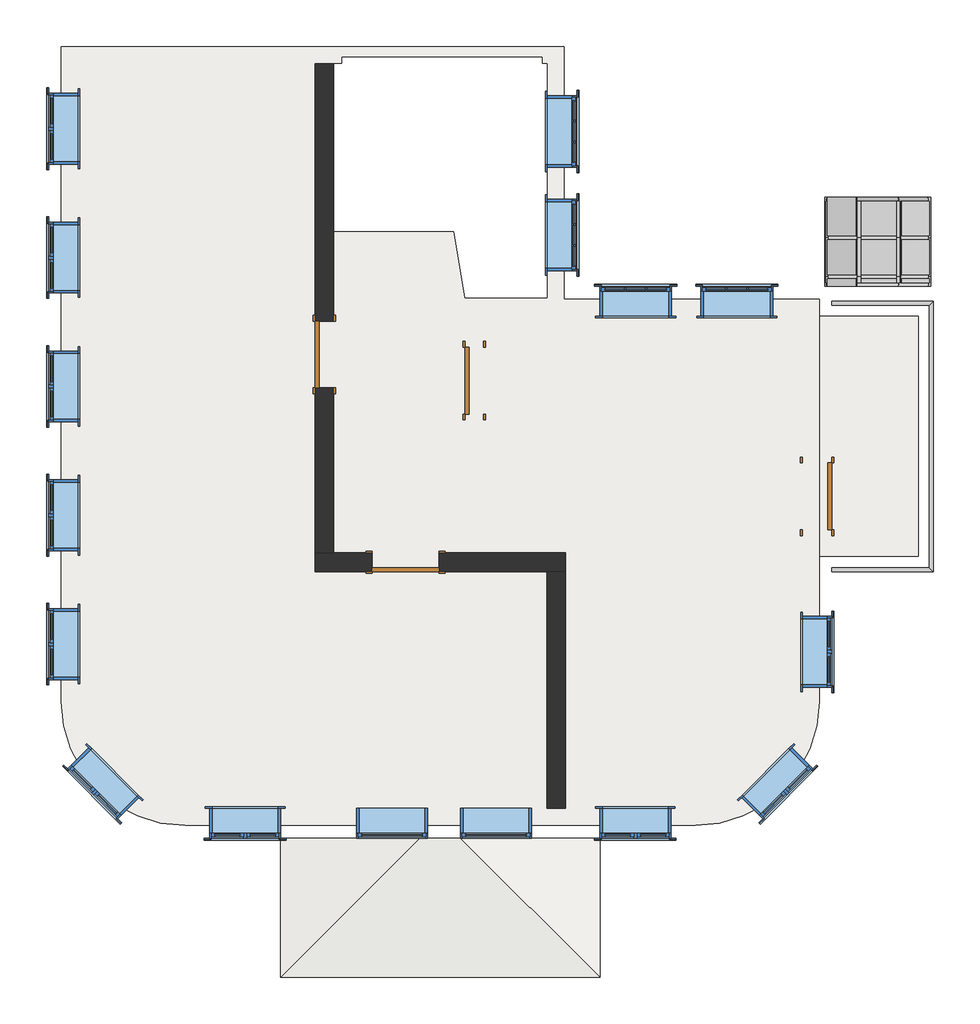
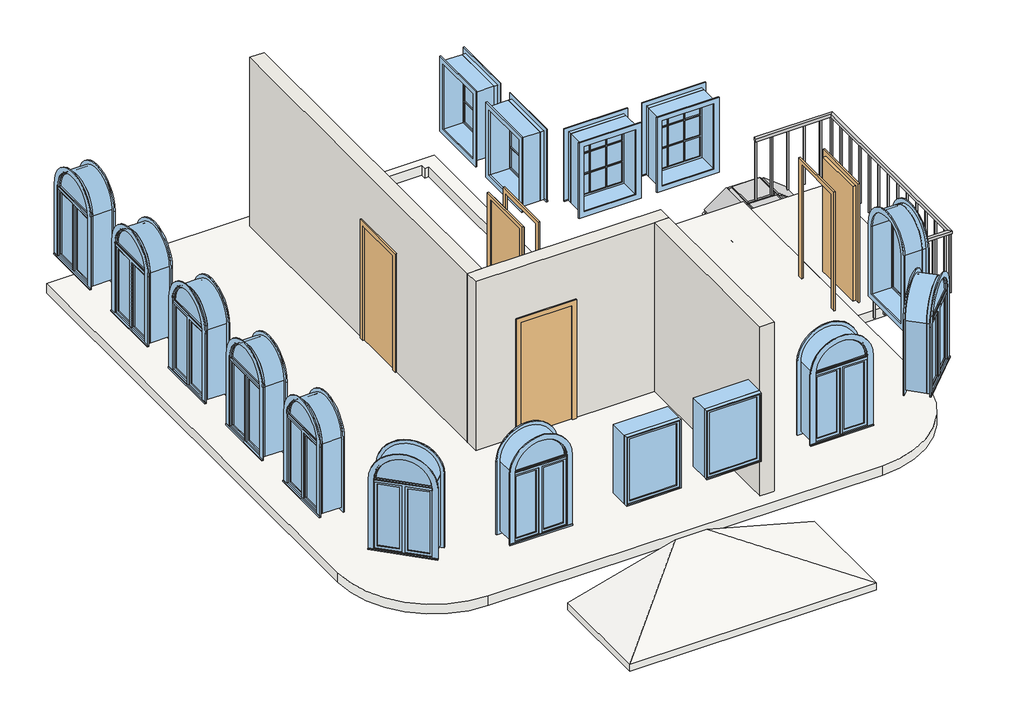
# One storey: 27 members, 16 windows, 9 plates, 4 doors, 3 walls, 2 slabs, 1 railing, 1 roof.
"""IFC4 building model written with IfcOpenShell, lengths in millimetres."""

from ifc_helpers import new_model, si_unit, point, frame, frame_2d, origin, place, context, project, spatial, polyline, circle_curve, trimmed, segment, composite_curve, outline, extrude, faceted_brep, transform, mapped, element, save
from components import door_ea98532d, door_d674bff8, member_5490ff31, member_26caf756, member_0b83a453, member_5b2e4b60, member_a07bf11e, member_52f6bd63, member_5daffadf, member_41b69e77, member_6c500f24, member_add3a86c, member_5090654c, member_9f0fa0cb, plate_e0c8f2b3, plate_3c5f5a08, plate_edc0c4ef, plate_30ae563e, railing_185072cb, window_f95da8d7, window_90be6c16, window_8de6a101

model = new_model("IFC4")

# Units and contexts
model_context = context("Model", 3, world=origin())
ifc_project = project(units=[si_unit("LENGTHUNIT", "METRE", prefix="MILLI")], contexts=[model_context])

# Site, building, storey
site = spatial("IfcSite", under=ifc_project)
building = spatial("IfcBuilding", under=site)
storey = spatial("IfcBuildingStorey", under=building, Name="2 этаж", Elevation=3300.0)

# Doors
placement = place(None, origin())
door_shape = door_ea98532d(model_context)
element("IfcDoor", 1, ObjectType="Одиночные-Щитовые : 0864 x 2032 мм", at=placement, inside=storey, context=model_context, shape_type="MappedRepresentation", body=[
    mapped(door_shape, transform((-1941.7998207, 1716.4374152, 3300.0), x_axis=(0.0, -1.0, 0.0), y_axis=(1.0, 0.0, 0.0), z_axis=(0.0, 0.0, 1.0))),
])
door_2_shape = door_d674bff8(model_context)
element("IfcDoor", 2, ObjectType="Одиночные-Щитовые : 0864 x 2032 мм", at=placement, inside=storey, context=model_context, shape_type="MappedRepresentation", body=[
    mapped(door_2_shape, transform((-7262.2998207, 864.4374152, 3300.0), x_axis=(1.0, 0.0, 0.0), y_axis=(0.0, 1.0, 0.0), z_axis=(0.0, 0.0, 1.0))),
])
element("IfcDoor", 3, ObjectType="Одиночные-Щитовые : 0864 x 2032 мм", at=placement, inside=storey, context=model_context, shape_type="MappedRepresentation", body=[
    mapped(door_2_shape, transform((-8314.2998207, 3548.9374152, 3300.0), x_axis=(0.0, -1.0, 0.0), y_axis=(1.0, 0.0, 0.0), z_axis=(0.0, 0.0, 1.0))),
])
element("IfcDoor", 4, ObjectType="Одиночные-Щитовые : 0864 x 2032 мм", at=placement, inside=storey, context=model_context, shape_type="MappedRepresentation", body=[
    mapped(door_2_shape, transform((-6374.2998207, 3212.4374152, 3300.0), x_axis=(0.0, -1.0, 0.0), y_axis=(1.0, 0.0, 0.0), z_axis=(0.0, 0.0, 1.0))),
])

# Members
member_shape = member_5490ff31(model_context)
element("IfcMember", 5, ObjectType="Импост круглого сечения : Радиус 25мм", at=placement, inside=storey, context=model_context, shape_type="MappedRepresentation", body=[
    mapped(member_shape, transform((-518.9223923, 5056.8379074, 2267.7344362), x_axis=(0.0, -1.0, 0.0), y_axis=(-0.6099350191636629, 0.0, -0.7924514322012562), z_axis=(0.7924514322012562, 0.0, -0.6099350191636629))),
])
element("IfcMember", 6, ObjectType="Импост круглого сечения : Радиус 25мм", at=placement, inside=storey, context=model_context, shape_type="MappedRepresentation", body=[
    mapped(member_shape, transform((-518.9223923, 4556.8379074, 2267.7344362), x_axis=(0.0, -1.0, 0.0), y_axis=(-0.6099350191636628, 0.0, -0.7924514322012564), z_axis=(0.7924514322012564, 0.0, -0.6099350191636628))),
])
element("IfcMember", 7, ObjectType="Импост круглого сечения : Радиус 25мм", at=placement, inside=storey, context=model_context, shape_type="MappedRepresentation", body=[
    mapped(member_shape, transform((-920.3351215, 5056.8379074, 2557.7452058), x_axis=(0.0, -1.0, 0.0), y_axis=(-0.011665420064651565, 0.0, -0.9999319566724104), z_axis=(0.9999319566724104, 0.0, -0.011665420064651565))),
])
element("IfcMember", 8, ObjectType="Импост круглого сечения : Радиус 25мм", at=placement, inside=storey, context=model_context, shape_type="MappedRepresentation", body=[
    mapped(member_shape, transform((-920.3351215, 4556.8379074, 2557.7452058), x_axis=(0.0, -1.0, 0.0), y_axis=(-0.011665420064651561, 0.0, -0.9999319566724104), z_axis=(0.9999319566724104, 0.0, -0.011665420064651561))),
])
element("IfcMember", 9, ObjectType="Импост круглого сечения : Радиус 25мм", at=placement, inside=storey, context=model_context, shape_type="MappedRepresentation", body=[
    mapped(member_shape, transform((-1415.7024234, 5056.8379074, 2548.8344499), x_axis=(0.0, -1.0, 0.0), y_axis=(0.5780732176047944, 0.0, -0.815984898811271), z_axis=(0.815984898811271, 0.0, 0.5780732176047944))),
])
element("IfcMember", 10, ObjectType="Импост круглого сечения : Радиус 25мм", at=placement, inside=storey, context=model_context, shape_type="MappedRepresentation", body=[
    mapped(member_shape, transform((-1415.7024234, 4556.8379074, 2548.8344499), x_axis=(0.0, -1.0, 0.0), y_axis=(0.5780732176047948, 0.0, -0.8159848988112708), z_axis=(0.8159848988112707, 0.0, 0.5780732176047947))),
])
member_2_shape = member_26caf756(model_context)
element("IfcMember", 11, ObjectType="Импост круглого сечения : Радиус 25мм", at=placement, inside=storey, context=model_context, shape_type="MappedRepresentation", body=[
    mapped(member_2_shape, transform((-895.3368226, 4479.4374152, 2557.4535703), x_axis=(-0.9474329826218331, 0.0, 0.3199542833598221), y_axis=(-0.3199542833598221, 0.0, -0.9474329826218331), z_axis=(0.0, -1.0, 0.0))),
])
element("IfcMember", 12, ObjectType="Импост круглого сечения : Радиус 25мм", at=placement, inside=storey, context=model_context, shape_type="MappedRepresentation", body=[
    mapped(member_2_shape, transform((-1395.3028009, 4479.4374152, 2563.2862803), x_axis=(-0.9546394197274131, 0.0, -0.2977642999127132), y_axis=(0.2977642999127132, 0.0, -0.9546394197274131), z_axis=(0.0, -1.0, 0.0))),
])
element("IfcMember", 13, ObjectType="Импост круглого сечения : Радиус 25мм", at=placement, inside=storey, context=model_context, shape_type="MappedRepresentation", body=[
    mapped(member_2_shape, transform((-1803.2952503, 4479.4374152, 2274.2496715), x_axis=(-0.5975285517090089, 0.0, -0.8018476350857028), y_axis=(0.8018476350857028, 0.0, -0.5975285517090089), z_axis=(0.0, -1.0, 0.0))),
])
member_3_shape = member_0b83a453(model_context)
element("IfcMember", 14, ObjectType="Импост круглого сечения : Радиус 25мм", at=placement, inside=storey, context=model_context, shape_type="MappedRepresentation", body=[
    mapped(member_3_shape, transform((-895.3368226, 5056.8379074, 2557.4535703), x_axis=(-0.9474329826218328, 0.0, 0.31995428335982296), y_axis=(-0.31995428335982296, 0.0, -0.9474329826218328), z_axis=(0.0, -1.0, 0.0))),
])
element("IfcMember", 15, ObjectType="Импост круглого сечения : Радиус 25мм", at=placement, inside=storey, context=model_context, shape_type="MappedRepresentation", body=[
    mapped(member_3_shape, transform((-1395.3028009, 5056.8379074, 2563.2862803), x_axis=(-0.9546394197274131, 0.0, -0.2977642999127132), y_axis=(0.2977642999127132, 0.0, -0.9546394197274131), z_axis=(0.0, -1.0, 0.0))),
])
element("IfcMember", 16, ObjectType="Импост круглого сечения : Радиус 25мм", at=placement, inside=storey, context=model_context, shape_type="MappedRepresentation", body=[
    mapped(member_3_shape, transform((-1803.2952503, 5056.8379074, 2274.2496715), x_axis=(-0.5975285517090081, 0.0, -0.8018476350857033), y_axis=(0.8018476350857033, 0.0, -0.5975285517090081), z_axis=(0.0, -1.0, 0.0))),
])
member_4_shape = member_5b2e4b60(model_context)
element("IfcMember", 17, ObjectType="Импост круглого сечения : Радиус 25мм", at=placement, inside=storey, context=model_context, shape_type="MappedRepresentation", body=[
    mapped(member_4_shape, transform((-895.3368226, 4556.8379074, 2557.4535703), x_axis=(-0.9474329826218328, 0.0, 0.31995428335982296), y_axis=(-0.31995428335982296, 0.0, -0.9474329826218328), z_axis=(0.0, -1.0, 0.0))),
])
element("IfcMember", 18, ObjectType="Импост круглого сечения : Радиус 25мм", at=placement, inside=storey, context=model_context, shape_type="MappedRepresentation", body=[
    mapped(member_4_shape, transform((-1395.3028009, 4556.8379074, 2563.2862803), x_axis=(-0.9546394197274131, 0.0, -0.2977642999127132), y_axis=(0.2977642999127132, 0.0, -0.9546394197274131), z_axis=(0.0, -1.0, 0.0))),
])
element("IfcMember", 19, ObjectType="Импост круглого сечения : Радиус 25мм", at=placement, inside=storey, context=model_context, shape_type="MappedRepresentation", body=[
    mapped(member_4_shape, transform((-1803.2952503, 4556.8379074, 2274.2496715), x_axis=(-0.5975285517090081, 0.0, -0.8018476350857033), y_axis=(0.8018476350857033, 0.0, -0.5975285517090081), z_axis=(0.0, -1.0, 0.0))),
])
member_5_shape = member_a07bf11e(model_context)
element("IfcMember", 20, ObjectType="Импост круглого сечения : Радиус 25мм", at=placement, inside=storey, context=model_context, shape_type="MappedRepresentation", body=[
    mapped(member_5_shape, transform((-479.2998207, 5581.8379074, 2237.2376852), x_axis=(0.7924514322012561, 0.0, -0.609935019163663), y_axis=(-0.609935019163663, 0.0, -0.7924514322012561), z_axis=(0.0, 1.0, 0.0))),
])
member_6_shape = member_52f6bd63(model_context)
element("IfcMember", 21, ObjectType="Импост круглого сечения : Радиус 25мм", at=placement, inside=storey, context=model_context, shape_type="MappedRepresentation", body=[
    mapped(member_6_shape, transform((-1829.2998207, 4429.4374152, 2237.2376852), x_axis=(-0.574888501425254, 0.0, -0.8182317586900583), y_axis=(0.8182317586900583, 0.0, -0.574888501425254), z_axis=(0.0, -1.0, 0.0))),
])
member_7_shape = member_5daffadf(model_context)
element("IfcMember", 22, ObjectType="Импост круглого сечения : Радиус 25мм", at=placement, inside=storey, context=model_context, shape_type="MappedRepresentation", body=[
    mapped(member_7_shape, transform((-479.2998207, 5056.8379074, 2237.2376852), x_axis=(0.7924514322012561, 0.0, -0.6099350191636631), y_axis=(-0.6099350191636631, 0.0, -0.7924514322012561), z_axis=(0.0, 1.0, 0.0))),
])
element("IfcMember", 23, ObjectType="Импост круглого сечения : Радиус 25мм", at=placement, inside=storey, context=model_context, shape_type="MappedRepresentation", body=[
    mapped(member_7_shape, transform((-1829.2998207, 4556.8379074, 2237.2376852), x_axis=(-0.57488850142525, 0.0, -0.818231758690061), y_axis=(0.818231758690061, 0.0, -0.57488850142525), z_axis=(0.0, -1.0, 0.0))),
])
element("IfcMember", 24, ObjectType="Импост круглого сечения : Радиус 25мм", at=placement, inside=storey, context=model_context, shape_type="MappedRepresentation", body=[
    mapped(member_6_shape, transform((-479.2998207, 4556.8379074, 2237.2376852), x_axis=(0.792451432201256, 0.0, -0.6099350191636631), y_axis=(-0.6099350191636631, 0.0, -0.792451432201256), z_axis=(0.0, 1.0, 0.0))),
])
element("IfcMember", 25, ObjectType="Импост круглого сечения : Радиус 25мм", at=placement, inside=storey, context=model_context, shape_type="MappedRepresentation", body=[
    mapped(member_5_shape, transform((-1829.2998207, 5056.8379074, 2237.2376852), x_axis=(-0.57488850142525, 0.0, -0.818231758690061), y_axis=(0.818231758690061, 0.0, -0.57488850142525), z_axis=(0.0, -1.0, 0.0))),
])
member_8_shape = member_41b69e77(model_context)
element("IfcMember", 26, ObjectType="Импост круглого сечения : Радиус 25мм", at=placement, inside=storey, context=model_context, shape_type="MappedRepresentation", body=[
    mapped(member_8_shape, transform((-1800.5553956, 5581.8379074, 2278.1492732), x_axis=(0.0, 1.0, 0.0), y_axis=(0.8182317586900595, 0.0, -0.5748885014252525), z_axis=(-0.5748885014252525, 0.0, -0.8182317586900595))),
])
member_9_shape = member_6c500f24(model_context)
element("IfcMember", 27, ObjectType="Импост круглого сечения : Радиус 25мм", at=placement, inside=storey, context=model_context, shape_type="MappedRepresentation", body=[
    mapped(member_9_shape, transform((-1420.3010999, 5581.8379074, 2563.5779158), x_axis=(0.0, 1.0, 0.0), y_axis=(-0.011665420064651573, 0.0, -0.9999319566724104), z_axis=(-0.9999319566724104, 0.0, 0.011665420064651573))),
])
member_10_shape = member_add3a86c(model_context)
element("IfcMember", 28, ObjectType="Импост круглого сечения : Радиус 25мм", at=placement, inside=storey, context=model_context, shape_type="MappedRepresentation", body=[
    mapped(member_10_shape, transform((-895.3368226, 4429.4374152, 2557.4535703), x_axis=(0.0, -1.0, 0.0), y_axis=(-0.011665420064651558, 0.0, -0.9999319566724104), z_axis=(0.9999319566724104, 0.0, -0.011665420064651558))),
])
element("IfcMember", 29, ObjectType="Импост круглого сечения : Радиус 25мм", at=placement, inside=storey, context=model_context, shape_type="MappedRepresentation", body=[
    mapped(member_8_shape, transform((-1788.9230378, 4429.4374152, 2294.7054655), x_axis=(0.0, -1.0, 0.0), y_axis=(0.8182317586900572, 0.0, -0.5748885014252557), z_axis=(0.5748885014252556, 0.0, 0.818231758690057))),
])
member_11_shape = member_5090654c(model_context)
element("IfcMember", 30, ObjectType="Импост круглого сечения : Радиус 25мм", at=placement, inside=storey, context=model_context, shape_type="MappedRepresentation", body=[
    mapped(member_11_shape, transform((-518.9223923, 4429.4374152, 2267.7344362), x_axis=(0.0, -1.0, 0.0), y_axis=(-0.6099350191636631, 0.0, -0.792451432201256), z_axis=(0.792451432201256, 0.0, -0.6099350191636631))),
])
member_12_shape = member_9f0fa0cb(model_context)
element("IfcMember", 31, ObjectType="Импост круглого сечения : Радиус 25мм", at=placement, inside=storey, context=model_context, shape_type="MappedRepresentation", body=[
    mapped(member_12_shape, transform((-895.3368226, 5581.8379074, 2557.4535703), x_axis=(0.0, 1.0, 0.0), y_axis=(-0.6099350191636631, 0.0, -0.792451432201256), z_axis=(-0.792451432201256, 0.0, 0.6099350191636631))),
])

# Plates
plate_shape = plate_e0c8f2b3(model_context)
element("IfcPlate", 32, ObjectType="Системная панель : С остеклением", at=placement, inside=storey, context=model_context, shape_type="MappedRepresentation", body=[
    mapped(plate_shape, transform((-1599.2990256, 5081.8379074, 2418.7679759), x_axis=(-0.8159848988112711, 0.0, -0.5780732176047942), y_axis=(-0.5780732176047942, 0.0, 0.8159848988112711), z_axis=(0.0, 1.0, 0.0))),
])
plate_2_shape = plate_3c5f5a08(model_context)
element("IfcPlate", 33, ObjectType="Системная панель : С остеклением", at=placement, inside=storey, context=model_context, shape_type="MappedRepresentation", body=[
    mapped(plate_2_shape, transform((-697.2239645, 5081.8379074, 2404.9698155), x_axis=(-0.7924514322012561, 0.0, 0.609935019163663), y_axis=(0.609935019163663, 0.0, 0.7924514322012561), z_axis=(0.0, 1.0, 0.0))),
])
element("IfcPlate", 34, ObjectType="Системная панель : С остеклением", at=placement, inside=storey, context=model_context, shape_type="MappedRepresentation", body=[
    mapped(plate_2_shape, transform((-1145.3198118, 5081.8379074, 2560.3699253), x_axis=(-0.9999319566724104, 0.0, 0.011665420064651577), y_axis=(0.011665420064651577, 0.0, 0.9999319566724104), z_axis=(0.0, 1.0, 0.0))),
])
element("IfcPlate", 35, ObjectType="Системная панель : С остеклением", at=placement, inside=storey, context=model_context, shape_type="MappedRepresentation", body=[
    mapped(plate_2_shape, transform((-697.2239645, 4581.8379074, 2404.9698155), x_axis=(-0.7924514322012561, 0.0, 0.6099350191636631), y_axis=(0.6099350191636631, 0.0, 0.7924514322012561), z_axis=(0.0, 1.0, 0.0))),
])
element("IfcPlate", 36, ObjectType="Системная панель : С остеклением", at=placement, inside=storey, context=model_context, shape_type="MappedRepresentation", body=[
    mapped(plate_2_shape, transform((-1145.3198118, 4581.8379074, 2560.3699253), x_axis=(-0.9999319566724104, 0.0, 0.011665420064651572), y_axis=(0.011665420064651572, 0.0, 0.9999319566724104), z_axis=(0.0, 1.0, 0.0))),
])
element("IfcPlate", 37, ObjectType="Системная панель : С остеклением", at=placement, inside=storey, context=model_context, shape_type="MappedRepresentation", body=[
    mapped(plate_2_shape, transform((-1599.2990256, 4581.8379074, 2418.7679759), x_axis=(-0.8159848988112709, 0.0, -0.5780732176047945), y_axis=(-0.5780732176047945, 0.0, 0.8159848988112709), z_axis=(0.0, 1.0, 0.0))),
])
plate_3_shape = plate_edc0c4ef(model_context)
element("IfcPlate", 38, ObjectType="Системная панель : С остеклением", at=placement, inside=storey, context=model_context, shape_type="MappedRepresentation", body=[
    mapped(plate_3_shape, transform((-697.2239645, 4479.4374152, 2404.9698155), x_axis=(-0.792451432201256, 0.0, 0.6099350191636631), y_axis=(0.6099350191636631, 0.0, 0.792451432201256), z_axis=(0.0, 1.0, 0.0))),
])
element("IfcPlate", 39, ObjectType="Системная панель : С остеклением", at=placement, inside=storey, context=model_context, shape_type="MappedRepresentation", body=[
    mapped(plate_3_shape, transform((-1145.3198118, 4479.4374152, 2560.3699253), x_axis=(-0.9999319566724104, 0.0, 0.011665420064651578), y_axis=(0.011665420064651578, 0.0, 0.9999319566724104), z_axis=(0.0, 1.0, 0.0))),
])
plate_4_shape = plate_30ae563e(model_context)
element("IfcPlate", 40, ObjectType="Системная панель : С остеклением", at=placement, inside=storey, context=model_context, shape_type="MappedRepresentation", body=[
    mapped(plate_4_shape, transform((-1599.2990256, 4429.4374152, 2418.7679759), x_axis=(-0.8159848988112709, 0.0, -0.5780732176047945), y_axis=(-0.5780732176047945, 0.0, 0.8159848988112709), z_axis=(0.0, 1.0, 0.0))),
])

# Railing
railing_shape = railing_185072cb(model_context)
element("IfcRailing", 41, ObjectType="1100 мм", at=placement, inside=storey, context=model_context, shape_type="MappedRepresentation", body=[
    mapped(railing_shape, transform((0.0, 0.0, 0.0), x_axis=(1.0, 0.0, 0.0), y_axis=(0.0, 1.0, 0.0), z_axis=(0.0, 0.0, 1.0))),
])

# Roof
element("IfcRoof", 42, ObjectType="Типовой - 125мм", at=placement, inside=storey, context=model_context, shape_type="Brep", body=[
    faceted_brep([(-6549.2998207, -2700.5625848, 3201.9237886), (-4749.2998207, -2700.5625848, 2719.6152423), (-4749.2998207, -4500.5625848, 2719.6152423), (-8879.2998207, -4500.5625848, 2719.6152423), (-8879.2998207, -2700.5625848, 2719.6152423), (-7079.2998207, -2700.5625848, 3201.9237886), (-4749.2998207, -2700.5625848, 2849.0247648), (-6549.2998207, -2700.5625848, 3331.3333112), (-4749.2998207, -4500.5625848, 2849.0247648), (-8879.2998207, -2700.5625848, 2849.0247648), (-8879.2998207, -4500.5625848, 2849.0247648), (-7079.2998207, -2700.5625848, 3331.3333112)], [[[0, 1, 2]], [[3, 4, 5]], [[3, 5, 0, 2]], [[6, 7, 8]], [[9, 10, 11]], [[10, 8, 7, 11]], [[3, 10, 9, 4]], [[2, 8, 10, 3]], [[1, 6, 8, 2]], [[9, 11, 7, 6, 1, 0, 5, 4]]]),
])

# Slabs
element("IfcSlab", 43, ObjectType="1 Бетон+ паркет", at=placement, inside=storey, context=model_context, shape_type="SweptSolid", body=[
    extrude(outline(composite_curve([segment(polyline([(-5214.2998207, 4264.4374152), (-1914.2998207, 4264.4374152), (-1914.2998207, -935.5625848)]), True, "CONTINUOUS"), segment(trimmed(circle_curve(frame_2d((-3514.2998207, -935.5625848)), 1600.0), [point((-1914.2998207, -935.5625848))], [point((-3514.2998207, -2535.5625848))], False, "CARTESIAN"), True, "CONTINUOUS"), segment(polyline([(-3514.2998207, -2535.5625848), (-10114.2998207, -2535.5625848)]), True, "CONTINUOUS"), segment(trimmed(circle_curve(frame_2d((-10114.2998207, -935.5625848)), 1600.0), [point((-10114.2998207, -2535.5625848))], [point((-11714.2998207, -935.5625848))], False, "CARTESIAN"), True, "CONTINUOUS"), segment(polyline([(-11714.2998207, -935.5625848), (-11714.2998207, 7529.4374152), (-5214.2998207, 7529.4374152), (-5214.2998207, 4264.4374152)]), True, "CONTINUOUS")], self_intersect=False), holes=[polyline([(-8086.7998207, 7309.4374152), (-8194.2998207, 7309.4374152), (-8194.2998207, 5145.4374152), (-6944.2998207, 5145.4374152), (-6684.2998207, 5145.4374152), (-6634.2998207, 5145.4374152), (-6494.2998207, 4284.4374152), (-5434.2998207, 4284.4374152), (-5434.2998207, 7309.4374152), (-5499.2998207, 7309.4374152), (-5499.2998207, 7389.4374152), (-8086.7998207, 7389.4374152), (-8086.7998207, 7309.4374152)])]), frame((0.0, 0.0, 3130.0), z_axis=(0.0, 0.0, 1.0), x_axis=(1.0, 0.0, 0.0)), (0.0, 0.0, 1.0), 170.0),
])
element("IfcSlab", 44, ObjectType="1 Бетон+ кафель", at=placement, inside=storey, context=model_context, shape_type="SweptSolid", body=[
    extrude(outline(polyline([(-634.2998207, 940.7304961), (-1914.2998207, 940.7304961), (-1914.2998207, 4044.4374152), (-634.2998207, 4044.4374152), (-634.2998207, 940.7304961)])), frame((0.0, 0.0, 3130.0), z_axis=(0.0, 0.0, 1.0), x_axis=(1.0, 0.0, 0.0)), (0.0, 0.0, 1.0), 170.0),
])

# Walls
element("IfcWall", 45, ObjectType="1 Бетон 200 мм", at=placement, inside=storey, context=model_context, shape_type="SweptSolid", body=[
    extrude(outline(polyline([(3116.9374152, 5332.0), (3116.9374152, 3300.0), (984.4374152, 3300.0), (984.4374152, 6300.0), (7309.4374152, 6300.0), (7309.4374152, 3300.0), (3980.9374152, 3300.0), (3980.9374152, 5332.0), (3116.9374152, 5332.0)])), frame((-8434.2998207, 0.0, 0.0), z_axis=(1.0, 0.0, 0.0), x_axis=(0.0, 1.0, 0.0)), (0.0, 0.0, 1.0), 240.0),
])
element("IfcWall", 46, ObjectType="1 Бетон 200 мм", at=placement, inside=storey, context=model_context, shape_type="Brep", body=[
    faceted_brep([(-6830.2998207, 744.4374152, 5332.0), (-6830.2998207, 744.4374152, 3300.0), (-5434.2998207, 744.4374152, 3300.0), (-5194.2998207, 744.4374152, 3300.0), (-5194.2998207, 744.4374152, 6300.0), (-5434.2998207, 744.4374152, 6300.0), (-8434.2998207, 744.4374152, 6300.0), (-8434.2998207, 744.4374152, 3300.0), (-7694.2998207, 744.4374152, 3300.0), (-7694.2998207, 744.4374152, 5332.0), (-5194.2998207, 984.4374152, 3300.0), (-6830.2998207, 984.4374152, 3300.0), (-6830.2998207, 984.4374152, 5332.0), (-7694.2998207, 984.4374152, 5332.0), (-7694.2998207, 984.4374152, 3300.0), (-8194.2998207, 984.4374152, 3300.0), (-8434.2998207, 984.4374152, 3300.0), (-8434.2998207, 984.4374152, 6300.0), (-8194.2998207, 984.4374152, 6300.0), (-5194.2998207, 984.4374152, 6300.0)], [[[0, 1, 2, 3, 4, 5, 6, 7, 8, 9]], [[10, 11, 12, 13, 14, 15, 16, 17, 18, 19]], [[8, 7, 16, 15, 14]], [[3, 2, 1, 11, 10]], [[6, 5, 4, 19, 18, 17]], [[12, 11, 1, 0]], [[13, 12, 0, 9]], [[14, 13, 9, 8]], [[7, 6, 17, 16]], [[4, 3, 10, 19]]]),
])
element("IfcWall", 47, ObjectType="1 Бетон 200 мм", at=placement, inside=storey, context=model_context, shape_type="SweptSolid", body=[
    extrude(outline(polyline([(-5194.2998207, 744.4374152), (-5194.2998207, -2315.5625848), (-5434.2998207, -2315.5625848), (-5434.2998207, 744.4374152), (-5194.2998207, 744.4374152)])), frame((0.0, 0.0, 3300.0), z_axis=(0.0, 0.0, 1.0), x_axis=(1.0, 0.0, 0.0)), (0.0, 0.0, 1.0), 3000.0),
])

# Windows
window_shape = window_f95da8d7(model_context)
element("IfcWindow", 48, ObjectType="Объединение армирования с подрезкой : 0915 x 1220 мм", at=placement, inside=storey, context=model_context, shape_type="MappedRepresentation", body=[
    mapped(window_shape, transform((-9328.7976626, -2508.0625848, 3300.0), x_axis=(-1.0, 0.0, 0.0), y_axis=(0.0, -1.0, 0.0), z_axis=(0.0, 0.0, 1.0))),
])
element("IfcWindow", 49, ObjectType="Объединение армирования с подрезкой : 0915 x 1220 мм", at=placement, inside=storey, context=model_context, shape_type="MappedRepresentation", body=[
    mapped(window_shape, transform((-4283.7976626, -2508.0625848, 3300.0), x_axis=(-1.0, 0.0, 0.0), y_axis=(0.0, -1.0, 0.0), z_axis=(0.0, 0.0, 1.0))),
])
element("IfcWindow", 50, ObjectType="Объединение армирования с подрезкой : 0915 x 1220 мм", at=placement, inside=storey, context=model_context, shape_type="MappedRepresentation", body=[
    mapped(window_shape, transform((-2451.9002944, -1986.6453506, 3300.0), x_axis=(-0.7071067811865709, -0.7071067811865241, 0.0), y_axis=(0.7071067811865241, -0.7071067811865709, 0.0), z_axis=(0.0, 0.0, 1.0))),
])
element("IfcWindow", 51, ObjectType="Объединение армирования с подрезкой : 0915 x 1220 мм", at=placement, inside=storey, context=model_context, shape_type="MappedRepresentation", body=[
    mapped(window_shape, transform((-1941.7998207, -285.0604267, 3300.0), x_axis=(0.0, -1.0, 0.0), y_axis=(1.0, 0.0, 0.0), z_axis=(0.0, 0.0, 1.0))),
])
element("IfcWindow", 52, ObjectType="Объединение армирования с подрезкой : 0915 x 1220 мм", at=placement, inside=storey, context=model_context, shape_type="MappedRepresentation", body=[
    mapped(window_shape, transform((-11165.3825865, -1997.962111, 3300.0), x_axis=(-0.7071067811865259, 0.7071067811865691, 0.0), y_axis=(-0.7071067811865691, -0.7071067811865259, 0.0), z_axis=(0.0, 0.0, 1.0))),
])
element("IfcWindow", 53, ObjectType="Объединение армирования с подрезкой : 0915 x 1220 мм", at=placement, inside=storey, context=model_context, shape_type="MappedRepresentation", body=[
    mapped(window_shape, transform((-11686.7998207, -201.0647429, 3300.0), x_axis=(0.0, 1.0, 0.0), y_axis=(-1.0, 0.0, 0.0), z_axis=(0.0, 0.0, 1.0))),
])
element("IfcWindow", 54, ObjectType="Объединение армирования с подрезкой : 0915 x 1220 мм", at=placement, inside=storey, context=model_context, shape_type="MappedRepresentation", body=[
    mapped(window_shape, transform((-11686.7998207, 1463.9352571, 3300.0), x_axis=(0.0, 1.0, 0.0), y_axis=(-1.0, 0.0, 0.0), z_axis=(0.0, 0.0, 1.0))),
])
element("IfcWindow", 55, ObjectType="Объединение армирования с подрезкой : 0915 x 1220 мм", at=placement, inside=storey, context=model_context, shape_type="MappedRepresentation", body=[
    mapped(window_shape, transform((-11686.7998207, 3128.9352571, 3300.0), x_axis=(0.0, 1.0, 0.0), y_axis=(-1.0, 0.0, 0.0), z_axis=(0.0, 0.0, 1.0))),
])
element("IfcWindow", 56, ObjectType="Объединение армирования с подрезкой : 0915 x 1220 мм", at=placement, inside=storey, context=model_context, shape_type="MappedRepresentation", body=[
    mapped(window_shape, transform((-11686.7998207, 4793.9352571, 3300.0), x_axis=(0.0, 1.0, 0.0), y_axis=(-1.0, 0.0, 0.0), z_axis=(0.0, 0.0, 1.0))),
])
element("IfcWindow", 57, ObjectType="Объединение армирования с подрезкой : 0915 x 1220 мм", at=placement, inside=storey, context=model_context, shape_type="MappedRepresentation", body=[
    mapped(window_shape, transform((-11686.7998207, 6458.9352571, 3300.0), x_axis=(0.0, 1.0, 0.0), y_axis=(-1.0, 0.0, 0.0), z_axis=(0.0, 0.0, 1.0))),
])
window_2_shape = window_90be6c16(model_context)
element("IfcWindow", 58, ObjectType="Окно распашное 3x3 с подрезкой : 0915 x 1220 мм", at=placement, inside=storey, context=model_context, shape_type="MappedRepresentation", body=[
    mapped(window_2_shape, transform((-4286.7998207, 4236.9374152, 3300.0), x_axis=(1.0, 0.0, 0.0), y_axis=(0.0, 1.0, 0.0), z_axis=(0.0, 0.0, 1.0))),
])
element("IfcWindow", 59, ObjectType="Окно распашное 3x3 с подрезкой : 0915 x 1220 мм", at=placement, inside=storey, context=model_context, shape_type="MappedRepresentation", body=[
    mapped(window_2_shape, transform((-2979.2998207, 4236.9374152, 3300.0), x_axis=(1.0, 0.0, 0.0), y_axis=(0.0, 1.0, 0.0), z_axis=(0.0, 0.0, 1.0))),
])
element("IfcWindow", 60, ObjectType="Окно распашное 3x3 с подрезкой : 0915 x 1220 мм", at=placement, inside=storey, context=model_context, shape_type="MappedRepresentation", body=[
    mapped(window_2_shape, transform((-5241.7998207, 5091.9374152, 3300.0), x_axis=(0.0, -1.0, 0.0), y_axis=(1.0, 0.0, 0.0), z_axis=(0.0, 0.0, 1.0))),
])
element("IfcWindow", 61, ObjectType="Окно распашное 3x3 с подрезкой : 0915 x 1220 мм", at=placement, inside=storey, context=model_context, shape_type="MappedRepresentation", body=[
    mapped(window_2_shape, transform((-5241.7998207, 6431.9374152, 3300.0), x_axis=(0.0, -1.0, 0.0), y_axis=(1.0, 0.0, 0.0), z_axis=(0.0, 0.0, 1.0))),
])
window_3_shape = window_8de6a101(model_context)
element("IfcWindow", 62, ObjectType="Фиксированные : 0915 x 1220 мм", at=placement, inside=storey, context=model_context, shape_type="MappedRepresentation", body=[
    mapped(window_3_shape, transform((-7436.7998207, -2495.0625848, 3300.0), x_axis=(-1.0, 0.0, 0.0), y_axis=(0.0, -1.0, 0.0), z_axis=(0.0, 0.0, 1.0))),
])
element("IfcWindow", 63, ObjectType="Фиксированные : 0915 x 1220 мм", at=placement, inside=storey, context=model_context, shape_type="MappedRepresentation", body=[
    mapped(window_3_shape, transform((-6091.7998207, -2495.0625848, 3300.0), x_axis=(-1.0, 0.0, 0.0), y_axis=(0.0, -1.0, 0.0), z_axis=(0.0, 0.0, 1.0))),
])

save(model, "model.ifc")
